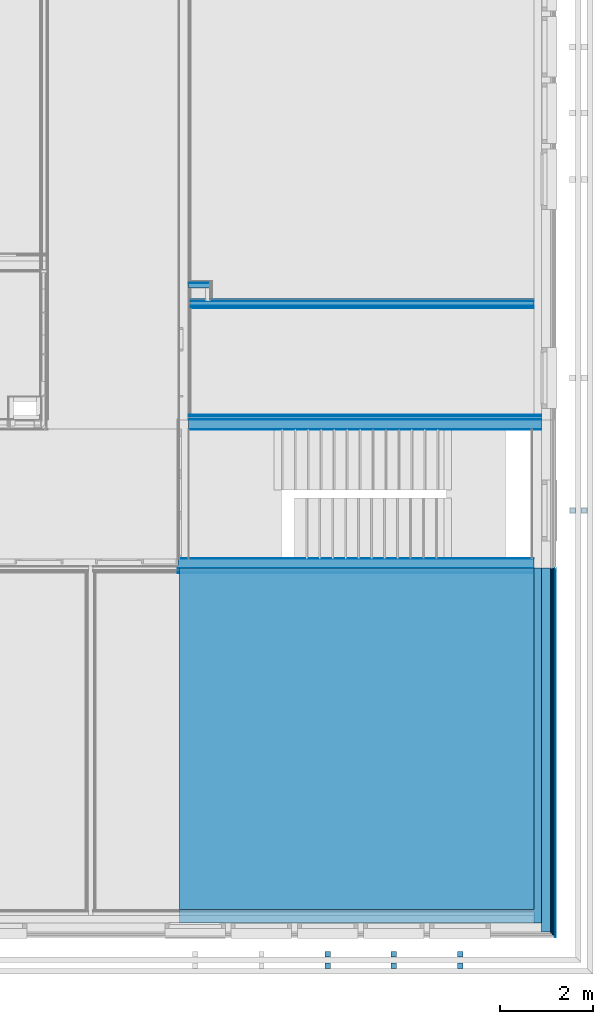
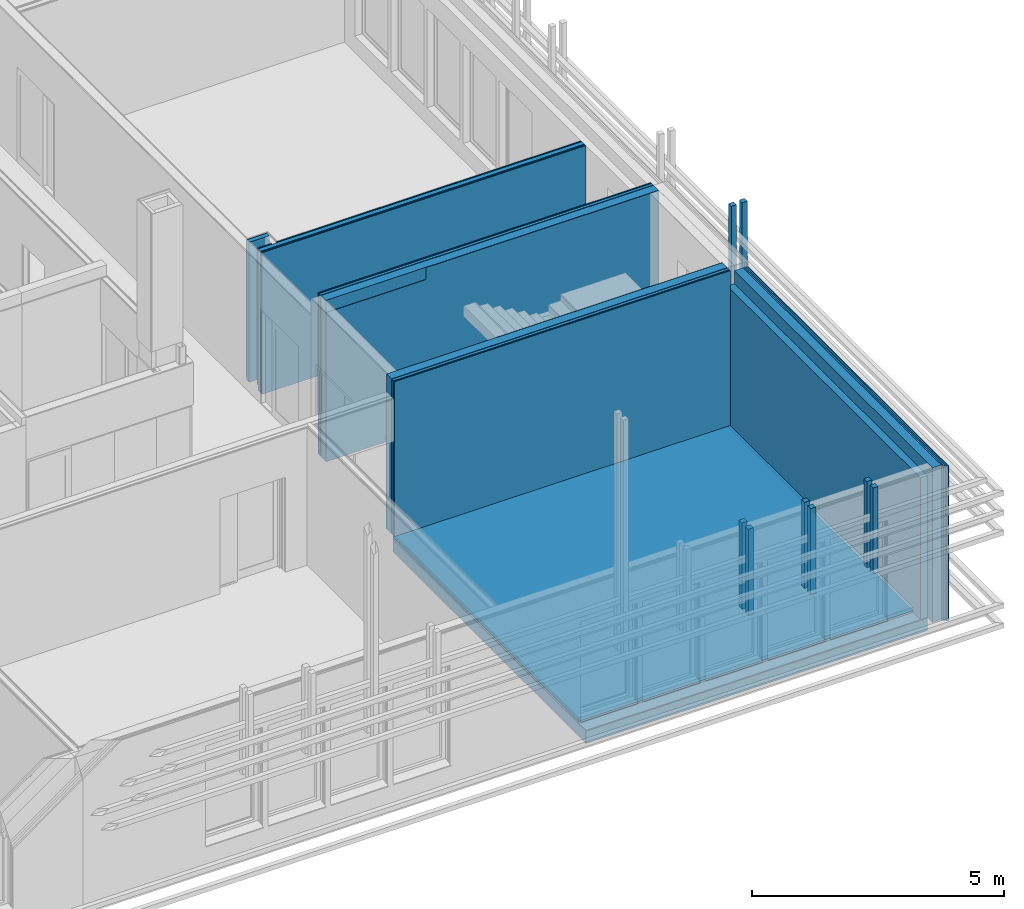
# One storey, part 112 of 139: 36 building element parts, 4 discrete accessories, 6 elements without a shape of their own.
"""IFC2X3 building model written with IfcOpenShell, lengths in millimetres."""

from ifc_helpers import new_model, entity, si_unit, converted_unit, derived_unit, money_unit, direction, frame, origin_with_axes, place, context, subcontext, project, spatial, faceted_brep, material, material_list, type_object, element, aggregate, save


model = new_model("IFC2X3")

# Units and contexts
model_context = context("Model", 3, precision=0.01, world=origin_with_axes(), true_north=direction((0.0, 1.0)))
body_context = subcontext(model_context, "Body", "Model", "MODEL_VIEW")
ifc_project = project(units=[si_unit("LENGTHUNIT", "METRE", prefix="MILLI"), si_unit("AREAUNIT", "SQUARE_METRE"), si_unit("VOLUMEUNIT", "CUBIC_METRE"), converted_unit("PLANEANGLEUNIT", "DEGREE", entity("IfcPlaneAngleMeasure", 0.0174532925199), si_unit("PLANEANGLEUNIT", "RADIAN"), dimensions=[0, 0, 0, 0, 0, 0, 0]), money_unit("EUR"), converted_unit("TIMEUNIT", "Year", entity("IfcTimeMeasure", 31556926.0), si_unit("TIMEUNIT", "SECOND"), dimensions=[0, 0, 1, 0, 0, 0, 0]), si_unit("MASSUNIT", "GRAM", prefix="KILO"), si_unit("THERMODYNAMICTEMPERATUREUNIT", "DEGREE_CELSIUS"), si_unit("LUMINOUSINTENSITYUNIT", "LUMEN"), si_unit("ENERGYUNIT", "JOULE", prefix="MEGA"), derived_unit("THERMALCONDUCTANCEUNIT", [(si_unit("POWERUNIT", "WATT"), 1), (si_unit("LENGTHUNIT", "METRE"), -1), (si_unit("THERMODYNAMICTEMPERATUREUNIT", "KELVIN"), -1)]), derived_unit("SPECIFICHEATCAPACITYUNIT", [(si_unit("ENERGYUNIT", "JOULE"), 1), (si_unit("MASSUNIT", "GRAM", prefix="KILO"), -1), (si_unit("THERMODYNAMICTEMPERATUREUNIT", "KELVIN"), -1)]), derived_unit("MASSDENSITYUNIT", [(si_unit("MASSUNIT", "GRAM", prefix="KILO"), 1), (si_unit("VOLUMEUNIT", "CUBIC_METRE"), -1)])], contexts=[model_context])

# Site, building, storey
site_placement = place(None, origin_with_axes())
site = spatial("IfcSite", under=ifc_project, at=site_placement, Name="Kolde pst 67a", CompositionType="ELEMENT")
building_placement = place(site_placement, origin_with_axes())
building = spatial("IfcBuilding", under=site, at=building_placement, Name="Riigigümnaasium", CompositionType="ELEMENT")
storey_placement = place(building_placement, frame((0.0, 0.0, 4600.0), z_axis=(0.0, 0.0, 1.0), x_axis=(1.0, 0.0, 0.0)))
storey = spatial("IfcBuildingStorey", under=building, at=storey_placement, Name="2. korrus", CompositionType="ELEMENT", Elevation=4600.0)

# Discrete accessories
ifc_material_1 = material(Name="_VÄLISVIIMISTLUS - sõrmjätkatud puitprussid 120x115mm, liitekohad vähemärgatavad, Platowood sõrmjätkatud kuusk või samaväärne; eeltöödeldud tuletõkkevõõbaga, tuletundlikkus B-s1, d0, Woodsafe Exterior WFX™ või samaväärne; kinnitused vastavalt EK osale")
ifc_material_list = material_list([ifc_material_1, ifc_material_1])
discrete_accessory_type = type_object("IfcDiscreteAccessoryType", Name="1+paiksekaitse 3 370 x 115")
discrete_accessory_placement = place(storey_placement, frame((85772.0409312, 9004.99278141, 2150.0), z_axis=(0.0, 0.0, 1.0), x_axis=(-1.0, 0.0, 0.0)))
element("IfcDiscreteAccessory", 1, at=discrete_accessory_placement, inside=storey, type_object=discrete_accessory_type, material=ifc_material_list, Name="Päikesevarjestus", context=body_context, shape_type="Brep", body=[
    faceted_brep([(467.0, 117.5, 0.0), (347.0, 117.5, 0.0), (347.0, 117.5, 2090.0), (467.0, 117.5, 2090.0), (467.0, 2.5, 0.0), (347.0, 2.5, 0.0), (347.0, 2.5, 2090.0), (467.0, 2.5, 2090.0)], [[[0, 1, 2, 3]], [[0, 4, 5, 1]], [[1, 5, 6, 2]], [[3, 2, 6, 7]], [[4, 0, 3, 7]], [[5, 4, 7, 6]]]),
    faceted_brep([(717.0, 117.5, 0.0), (597.0, 117.5, 0.0), (597.0, 117.5, 2090.0), (717.0, 117.5, 2090.0), (717.0, 2.5, 0.0), (597.0, 2.5, 0.0), (597.0, 2.5, 2090.0), (717.0, 2.5, 2090.0)], [[[0, 1, 2, 3]], [[0, 4, 5, 1]], [[1, 5, 6, 2]], [[3, 2, 6, 7]], [[4, 0, 3, 7]], [[5, 4, 7, 6]]]),
])
for number, where, z_axis, x_axis in (
    (2, (79885.0231689, -1292.00007473, 2150.0), (0.0, 0.0, 1.0), (0.0, 1.0, 0.0)),
    (3, (81315.0231689, -1292.00007473, 2150.0), (0.0, 0.0, 1.0), (0.0, 1.0, 0.0)),
    (4, (82745.0231689, -1292.00007473, 2150.0), (0.0, 0.0, 1.0), (0.0, 1.0, 0.0)),
):
    element("IfcDiscreteAccessory", number, at=place(storey_placement, frame(where, z_axis=z_axis, x_axis=x_axis)), inside=storey, type_object=discrete_accessory_type, material=ifc_material_list, Name="Päikesevarjestus", context=body_context, shape_type="Brep", body=[
        faceted_brep([(467.0, 117.5, 0.0), (347.0, 117.5, 0.0), (347.0, 117.5, 2090.0), (467.0, 117.5, 2090.0), (467.0, 2.5, 0.0), (347.0, 2.5, 0.0), (347.0, 2.5, 2090.0), (467.0, 2.5, 2090.0)], [[[0, 1, 2, 3]], [[0, 4, 5, 1]], [[1, 5, 6, 2]], [[3, 2, 6, 7]], [[4, 0, 3, 7]], [[5, 4, 7, 6]]]),
        faceted_brep([(717.0, 117.5, 0.0), (597.0, 117.5, 0.0), (597.0, 117.5, 2090.0), (717.0, 117.5, 2090.0), (717.0, 2.50000000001, 0.0), (597.0, 2.50000000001, 0.0), (597.0, 2.50000000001, 2090.0), (717.0, 2.50000000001, 2090.0)], [[[0, 1, 2, 3]], [[0, 4, 5, 1]], [[1, 5, 6, 2]], [[3, 2, 6, 7]], [[4, 0, 3, 7]], [[5, 4, 7, 6]]]),
    ])

# Wall, building element parts
wall_type_1 = type_object("IfcWallType", Name="VS-CLT-16/1_soojust 200+laudis 472", PredefinedType="NOTDEFINED")
wall_1_placement = place(storey_placement, frame((84439.9993279, 40.0, -130.0), z_axis=(0.0, 0.0, 1.0), x_axis=(0.0, 1.0, 0.0)))
wall_1 = element("IfcWall", 5, at=wall_1_placement, inside=storey, type_object=wall_type_1, Name="Välissein")
ifc_material_2 = material(Name="_KANDETARIND - CLT ristkihtliimpuit vastavalt EK osale, CLT paigaldusvuugid teibitakse ROTHOBLAAS teibiga")
building_element_part_1_placement = place(wall_1_placement, origin_with_axes())
building_element_part_1 = element("IfcBuildingElementPart", 6, at=building_element_part_1_placement, material=ifc_material_2, Name="_KANDETARIND - CLT ristkihtliimpuit vastavalt EK osale, CLT paigaldusvuugid teibitakse ROTHOBLAAS teibiga", context=body_context, shape_type="Brep", body=[
    faceted_brep([(7659.97369358, 160.0, 3436.9), (7659.9736286, 0.0, 3436.9), (7659.9736286, 0.0, 6.9), (7659.9744054, 159.999999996, 6.9), (0.0, 0.0, 3436.9), (-3.81552811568e-06, 160.0, 3436.9), (0.0, 0.0, 6.9), (0.0, 160.0, 6.9)], [[[0, 1, 2, 3]], [[4, 1, 0, 5]], [[1, 4, 6, 2]], [[3, 2, 6, 7]], [[5, 0, 3, 7]], [[4, 5, 7, 6]]]),
])
ifc_material_3 = material(Name="_SOOJUSTUS - mineraalvill, λD<0,032 W/(mK), kuumtsingitud lehtteras termoroovidega, S350GD+Zn275 vastavalt EN10346, ISOVER EXTREME 32 200mm või samaväärne")
building_element_part_2_placement = place(wall_1_placement, origin_with_axes())
building_element_part_2 = element("IfcBuildingElementPart", 7, at=building_element_part_2_placement, material=ifc_material_3, Name="_SOOJUSTUS - mineraalvill, λD<0,032 W/(mK), kuumtsingitud lehtteras termoroovidega, S350GD+Zn275 vastavalt EN10346, ISOVER EXTREME 32 200mm või samaväärne", context=body_context, shape_type="Brep", body=[
    faceted_brep([(-200.0, 0.0, 0.0), (7659.9736286, 0.0, 0.0), (7659.9736286, -200.0, 0.0), (-200.0, -200.0, 0.0), (-200.0, 0.0, 3750.0), (7659.9736286, 0.0, 3750.0), (7659.9736286, -200.0, 3750.0), (-200.0, -200.0, 3750.0)], [[[0, 1, 2, 3]], [[4, 5, 1, 0]], [[2, 1, 5, 6]], [[3, 2, 6, 7]], [[4, 0, 3, 7]], [[7, 6, 5, 4]]]),
])
ifc_material_4 = material(Name="_TUULETÕKE - tuuletõkkeplaat, soojuserijuhtivus λD<0,031 W/(mK), ISOVER RKL FACADE või samaväärne, liitekohad katta tihendusteibiga ISOVER FacadeTape või samaväärne")
building_element_part_3_placement = place(wall_1_placement, origin_with_axes())
building_element_part_3 = element("IfcBuildingElementPart", 8, at=building_element_part_3_placement, material=ifc_material_4, Name="_TUULETÕKE - tuuletõkkeplaat, soojuserijuhtivus λD<0,031 W/(mK), ISOVER RKL FACADE või samaväärne, liitekohad katta tihendusteibiga ISOVER FacadeTape või samaväärne", context=body_context, shape_type="Brep", body=[
    faceted_brep([(7659.9736286, -200.0, 0.0), (7659.9736286, -230.0, 0.0), (-230.0, -230.0, 0.0), (-230.0, -200.0, 0.0), (7659.9736286, -200.0, 3750.0), (7659.9736286, -230.0, 3750.0), (-230.0, -230.0, 3750.0), (-230.0, -200.0, 3750.0)], [[[0, 1, 2, 3]], [[0, 4, 5, 1]], [[1, 5, 6, 2]], [[3, 2, 6, 7]], [[4, 0, 3, 7]], [[5, 4, 7, 6]]]),
])
ifc_material_5 = material(Name="_KARKASS - puitroov 32x50mm vertikaalne, immutatud Driconi tulekaitsevahendiga või samaväärne, samm 600mm")
building_element_part_4_placement = place(wall_1_placement, origin_with_axes())
building_element_part_4 = element("IfcBuildingElementPart", 9, at=building_element_part_4_placement, material=ifc_material_5, Name="_KARKASS - puitroov 32x50mm vertikaalne, immutatud Driconi tulekaitsevahendiga või samaväärne, samm 600mm", context=body_context, shape_type="Brep", body=[
    faceted_brep([(7659.9736286, -230.0, 0.0), (7659.9736286, -262.0, 0.0), (-262.0, -262.0, 0.0), (-262.0, -230.0, 0.0), (7659.9736286, -230.0, 3750.0), (7659.9736286, -262.0, 3750.0), (-262.0, -262.0, 3750.0), (-262.0, -230.0, 3750.0)], [[[0, 1, 2, 3]], [[0, 4, 5, 1]], [[1, 5, 6, 2]], [[3, 2, 6, 7]], [[4, 0, 3, 7]], [[5, 4, 7, 6]]]),
])
ifc_material_6 = material(Name="_KARKASS - puitroov 32x50mm horisontaalne, immutatud Driconi tulekaitsevahendiga või samaväärne, samm 600mm")
building_element_part_5_placement = place(wall_1_placement, origin_with_axes())
building_element_part_5 = element("IfcBuildingElementPart", 10, at=building_element_part_5_placement, material=ifc_material_6, Name="_KARKASS - puitroov 32x50mm horisontaalne, immutatud Driconi tulekaitsevahendiga või samaväärne, samm 600mm", context=body_context, shape_type="Brep", body=[
    faceted_brep([(7659.9736286, -262.0, 0.0), (7659.9736286, -294.0, 0.0), (-294.0, -294.0, 0.0), (-294.0, -262.0, 0.0), (7659.9736286, -262.0, 3750.0), (7659.9736286, -294.0, 3750.0), (-294.0, -294.0, 3750.0), (-294.0, -262.0, 3750.0)], [[[0, 1, 2, 3]], [[0, 4, 5, 1]], [[1, 5, 6, 2]], [[3, 2, 6, 7]], [[4, 0, 3, 7]], [[5, 4, 7, 6]]]),
])
ifc_material_7 = material(Name="_VÄLISVIIMISTLUS - vertikaalne voodrilaud, Platowood P01 profiil 18x140mm, kuusk; eeltöödeldud tuletõkkega mõlemad küljed, B-s1, d0, Woodsafe Exterior WFX™ või samaväärne")
building_element_part_6_placement = place(wall_1_placement, origin_with_axes())
building_element_part_6 = element("IfcBuildingElementPart", 11, at=building_element_part_6_placement, material=ifc_material_7, Name="_VÄLISVIIMISTLUS - vertikaalne voodrilaud, Platowood P01 profiil 18x140mm, kuusk; eeltöödeldud tuletõkkega mõlemad küljed, B-s1, d0, Woodsafe Exterior WFX™ või samaväärne", context=body_context, shape_type="Brep", body=[
    faceted_brep([(7659.9736286, -294.0, 0.0), (7659.9736286, -312.0, 0.0), (-312.0, -312.0, 0.0), (-312.0, -294.0, 0.0), (7659.9736286, -294.0, 3750.0), (7659.9736286, -312.0, 3750.0), (-312.0, -312.0, 3750.0), (-312.0, -294.0, 3750.0)], [[[0, 1, 2, 3]], [[0, 4, 5, 1]], [[1, 5, 6, 2]], [[3, 2, 6, 7]], [[4, 0, 3, 7]], [[5, 4, 7, 6]]]),
])
aggregate(wall_1, [building_element_part_1, building_element_part_2, building_element_part_3, building_element_part_4, building_element_part_5, building_element_part_6])

wall_type_2 = type_object("IfcWallType", Name="SS-RB-20/9_kipsil krohv+roov66 +krohv 325", PredefinedType="NOTDEFINED")
wall_2_placement = place(storey_placement, frame((84439.9980432, 10899.9619407, -150.0), z_axis=(0.0, 0.0, 1.0), x_axis=(-1.0, 0.0, 0.0)))
wall_2 = element("IfcWall", 12, at=wall_2_placement, inside=storey, type_object=wall_type_2, Name="Sisesein")
ifc_material_8 = material(Name="_VIIMISTLUSKIHT - viimistlus vastavalt SA osale")
building_element_part_7_placement = place(wall_2_placement, origin_with_axes())
building_element_part_7 = element("IfcBuildingElementPart", 13, at=building_element_part_7_placement, material=ifc_material_8, Name="_VIIMISTLUSKIHT - viimistlus vastavalt SA osale", context=body_context, shape_type="Brep", body=[
    faceted_brep([(7620.00973991, 199.979471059, 3610.0), (5330.38135087, 199.979509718, 3610.0), (5330.38135087, 199.979509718, 3900.0), (0.0, 200.0, 3900.0), (0.0, 200.0, 0.0), (7620.00334582, 200.0, 0.0), (7620.00960493, 210.000000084, 3610.0), (5330.38135087, 210.0, 3610.0), (5330.38135087, 210.0, 3900.0), (0.0, 210.0, 3900.0), (0.0, 210.0, 0.0), (7620.00334582, 210.0, 0.0)], [[[0, 1, 2, 3, 4, 5]], [[1, 0, 6, 7]], [[2, 1, 7, 8]], [[9, 3, 2, 8]], [[9, 10, 4, 3]], [[10, 11, 5, 4]], [[6, 0, 5, 11]], [[7, 6, 11, 10, 9, 8]]]),
])
ifc_material_9 = material(Name="_KANDETARIND - monteeritav raudbetoon vastavalt EK osale")
building_element_part_8_placement = place(wall_2_placement, origin_with_axes())
building_element_part_8 = element("IfcBuildingElementPart", 14, at=building_element_part_8_placement, material=ifc_material_9, Name="_KANDETARIND - monteeritav raudbetoon vastavalt EK osale", context=body_context, shape_type="Brep", body=[
    faceted_brep([(0.0, 0.0, 0.0), (0.0, 200.0, 0.0), (7620.00334582, 200.0, 0.0), (7620.00334582, 0.0, 0.0), (0.0, 0.0, 3900.0), (0.0, 200.0, 3900.0), (7620.00334582, 200.0, 3900.0), (7620.00334582, 0.0, 3900.0)], [[[0, 1, 2, 3]], [[4, 5, 1, 0]], [[1, 5, 6, 2]], [[7, 3, 2, 6]], [[4, 0, 3, 7]], [[5, 4, 7, 6]]]),
])
ifc_material_10 = material(Name="_ÕHKVAHE")
building_element_part_9_placement = place(wall_2_placement, origin_with_axes())
building_element_part_9 = element("IfcBuildingElementPart", 15, at=building_element_part_9_placement, material=ifc_material_10, Name="_ÕHKVAHE", context=body_context, shape_type="Brep", body=[
    faceted_brep([(7620.00334582, 0.0, 0.0), (7620.00334582, -10.0, 0.0), (0.0, -10.0, 0.0), (0.0, 0.0, 0.0), (7620.00334582, 0.0, 3900.0), (7620.00334582, -10.0, 3900.0), (0.0, -10.0, 3900.0), (0.0, 0.0, 3900.0)], [[[0, 1, 2, 3]], [[0, 4, 5, 1]], [[1, 5, 6, 2]], [[3, 2, 6, 7]], [[4, 0, 3, 7]], [[5, 4, 7, 6]]]),
])
ifc_material_11 = material(Name="_KARKASS - metallkarkass CW 66/35/06, samm 600, mineraalvill karkassi vahel")
building_element_part_10_placement = place(wall_2_placement, origin_with_axes())
building_element_part_10 = element("IfcBuildingElementPart", 16, at=building_element_part_10_placement, material=ifc_material_11, Name="_KARKASS - metallkarkass CW 66/35/06, samm 600, mineraalvill karkassi vahel", context=body_context, shape_type="Brep", body=[
    faceted_brep([(7620.00334582, -10.0, 0.0), (7620.00334582, -76.0, 0.0), (0.0, -76.0, 0.0), (0.0, -10.0, 0.0), (7620.00334582, -10.0, 3900.0), (7620.00334582, -76.0, 3900.0), (0.0, -76.0, 3900.0), (0.0, -10.0, 3900.0)], [[[0, 1, 2, 3]], [[0, 4, 5, 1]], [[1, 5, 6, 2]], [[3, 2, 6, 7]], [[4, 0, 3, 7]], [[5, 4, 7, 6]]]),
])
ifc_material_12 = material(Name="_PLAATMATERJAL - OSB3 plaat")
building_element_part_11_placement = place(wall_2_placement, origin_with_axes())
building_element_part_11 = element("IfcBuildingElementPart", 17, at=building_element_part_11_placement, material=ifc_material_12, Name="_PLAATMATERJAL - OSB3 plaat", context=body_context, shape_type="Brep", body=[
    faceted_brep([(7620.00334582, -76.0, 0.0), (7620.00334582, -91.0, 0.0), (0.0, -91.0, 0.0), (0.0, -76.0, 0.0), (7620.00334582, -76.0, 3900.0), (7620.00334582, -91.0, 3900.0), (0.0, -91.0, 3900.0), (0.0, -76.0, 3900.0)], [[[0, 1, 2, 3]], [[0, 4, 5, 1]], [[1, 5, 6, 2]], [[3, 2, 6, 7]], [[4, 0, 3, 7]], [[5, 4, 7, 6]]]),
])
ifc_material_13 = material(Name="_PLAATMATERJAL - tuletõkkekipsplaat, Knauf Red GKF või samaväärne")
building_element_part_12_placement = place(wall_2_placement, origin_with_axes())
building_element_part_12 = element("IfcBuildingElementPart", 18, at=building_element_part_12_placement, material=ifc_material_13, Name="_PLAATMATERJAL - tuletõkkekipsplaat, Knauf Red GKF või samaväärne", context=body_context, shape_type="Brep", body=[
    faceted_brep([(7620.00334582, -91.0, 0.0), (7620.00334582, -106.0, 0.0), (0.0, -106.0, 0.0), (0.0, -91.0, 0.0), (7620.00334582, -91.0, 3900.0), (7620.00334582, -106.0, 3900.0), (0.0, -106.0, 3900.0), (0.0, -91.0, 3900.0)], [[[0, 1, 2, 3]], [[0, 4, 5, 1]], [[1, 5, 6, 2]], [[3, 2, 6, 7]], [[4, 0, 3, 7]], [[5, 4, 7, 6]]]),
])
building_element_part_13_placement = place(wall_2_placement, origin_with_axes())
building_element_part_13 = element("IfcBuildingElementPart", 19, at=building_element_part_13_placement, material=ifc_material_8, Name="_VIIMISTLUSKIHT - viimistlus vastavalt SA osale", context=body_context, shape_type="Brep", body=[
    faceted_brep([(7620.00334582, -106.0, 0.0), (7620.00334582, -115.0, 0.0), (0.0, -115.0, 0.0), (0.0, -106.0, 0.0), (7620.00334582, -106.0, 3900.0), (7620.00334582, -115.0, 3900.0), (0.0, -115.0, 3900.0), (0.0, -106.0, 3900.0)], [[[0, 1, 2, 3]], [[0, 4, 5, 1]], [[1, 5, 6, 2]], [[3, 2, 6, 7]], [[4, 0, 3, 7]], [[5, 4, 7, 6]]]),
])
aggregate(wall_2, [building_element_part_7, building_element_part_8, building_element_part_9, building_element_part_10, building_element_part_11, building_element_part_12, building_element_part_13])

wall_type_3 = type_object("IfcWallType", Name="SS-PK-10/8_vill100+dold+vineer-värv 200", PredefinedType="NOTDEFINED")
wall_3_placement = place(storey_placement, frame((84439.9991346, 13509.9534691, -130.0), z_axis=(0.0, 0.0, 1.0), x_axis=(-1.0, -2.82157997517e-07, 0.0)))
wall_3 = element("IfcWall", 20, at=wall_3_placement, inside=storey, type_object=wall_type_3, Name="Sisesein")
ifc_material_14 = material(Name="_VIIMISTLUSKIHT - Dold plaat vastavalt SA osale")
building_element_part_14_placement = place(wall_3_placement, origin_with_axes())
building_element_part_14 = element("IfcBuildingElementPart", 21, at=building_element_part_14_placement, material=ifc_material_14, Name="_VIIMISTLUSKIHT - Dold plaat vastavalt SA osale", context=body_context, shape_type="Brep", body=[
    faceted_brep([(7575.20456286, 180.0, 3436.9), (159.99985751, 180.0, 3436.9), (159.99985751, 180.0, 6.9), (5549.33119467, 180.0, 6.9), (5549.33119467, 180.0, 130.0), (5624.33119469, 180.0, 130.0), (5624.33119469, 180.0, 6.9), (7575.20456286, 180.0, 6.9), (159.999863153, 200.0, 3436.9), (7575.20456286, 200.0, 3436.9), (159.999863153, 200.0, 6.9), (5549.33067268, 200.0, 6.9), (5549.33067268, 200.0, 130.0), (5624.3306727, 200.0, 130.0), (5624.3306727, 200.0, 6.9), (7575.20456286, 200.0, 6.9)], [[[0, 1, 2, 3, 4, 5, 6, 7]], [[8, 1, 0, 9]], [[1, 8, 10, 2]], [[3, 2, 10, 11]], [[3, 11, 12, 4]], [[13, 5, 4, 12]], [[14, 6, 5, 13]], [[7, 6, 14, 15]], [[9, 0, 7, 15]], [[8, 9, 15, 14, 13, 12, 11, 10]]]),
])
ifc_material_15 = material(Name="_KARKASS - eriprofiilkinnitus vastavalt sisemisele plaatviimistlusele")
building_element_part_15_placement = place(wall_3_placement, origin_with_axes())
building_element_part_15 = element("IfcBuildingElementPart", 22, at=building_element_part_15_placement, material=ifc_material_15, Name="_KARKASS - eriprofiilkinnitus vastavalt sisemisele plaatviimistlusele", context=body_context, shape_type="Brep", body=[
    faceted_brep([(7575.20456286, 170.0, 3436.9), (159.999854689, 170.0, 3436.9), (159.999854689, 170.0, 6.9), (5549.33145566, 170.0, 6.9), (5549.33145566, 170.0, 130.0), (5624.33145569, 170.0, 130.0), (5624.33145569, 170.0, 6.9), (7575.20456286, 170.0, 6.9), (159.99985751, 180.0, 3436.9), (7575.20456286, 180.0, 3436.9), (159.99985751, 180.0, 6.9), (5549.33119467, 180.0, 6.9), (5549.33119467, 180.0, 130.0), (5624.33119469, 180.0, 130.0), (5624.33119469, 180.0, 6.9), (7575.20456286, 180.0, 6.9)], [[[0, 1, 2, 3, 4, 5, 6, 7]], [[8, 1, 0, 9]], [[1, 8, 10, 2]], [[3, 2, 10, 11]], [[3, 11, 12, 4]], [[13, 5, 4, 12]], [[14, 6, 5, 13]], [[7, 6, 14, 15]], [[9, 0, 7, 15]], [[8, 9, 15, 14, 13, 12, 11, 10]]]),
])
building_element_part_16_placement = place(wall_3_placement, origin_with_axes())
building_element_part_16 = element("IfcBuildingElementPart", 23, at=building_element_part_16_placement, material=ifc_material_13, Name="_PLAATMATERJAL - tuletõkkekipsplaat, Knauf Red GKF või samaväärne", context=body_context, shape_type="Brep", body=[
    faceted_brep([(7575.20456286, 155.0, 3436.9), (159.999850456, 155.0, 3436.9), (159.999850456, 155.0, 6.9), (5549.33184715, 155.0, 6.9), (5549.33184715, 155.0, 130.0), (5624.33184718, 155.0, 130.0), (5624.33184718, 155.0, 6.9), (7575.20456286, 155.0, 6.9), (159.999854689, 170.0, 3436.9), (7575.20456286, 170.0, 3436.9), (159.999854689, 170.0, 6.9), (5549.33145566, 170.0, 6.9), (5549.33145566, 170.0, 130.0), (5624.33145569, 170.0, 130.0), (5624.33145569, 170.0, 6.9), (7575.20456286, 170.0, 6.9)], [[[0, 1, 2, 3, 4, 5, 6, 7]], [[8, 1, 0, 9]], [[1, 8, 10, 2]], [[3, 2, 10, 11]], [[3, 11, 12, 4]], [[13, 5, 4, 12]], [[14, 6, 5, 13]], [[7, 6, 14, 15]], [[9, 0, 7, 15]], [[8, 9, 15, 14, 13, 12, 11, 10]]]),
])
building_element_part_17_placement = place(wall_3_placement, origin_with_axes())
building_element_part_17 = element("IfcBuildingElementPart", 24, at=building_element_part_17_placement, material=ifc_material_12, Name="_PLAATMATERJAL - OSB3 plaat", context=body_context, shape_type="Brep", body=[
    faceted_brep([(7575.20456286, 145.0, 3436.9), (159.999847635, 145.0, 3436.9), (159.999847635, 145.0, 6.9), (5549.33210814, 145.0, 6.9), (5549.33210814, 145.0, 130.0), (5624.33210817, 145.0, 130.0), (5624.33210817, 145.0, 6.9), (7575.20456286, 145.0, 6.9), (159.999850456, 155.0, 3436.9), (7575.20456286, 155.0, 3436.9), (159.999850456, 155.0, 6.9), (5549.33184715, 155.0, 6.9), (5549.33184715, 155.0, 130.0), (5624.33184718, 155.0, 130.0), (5624.33184718, 155.0, 6.9), (7575.20456286, 155.0, 6.9)], [[[0, 1, 2, 3, 4, 5, 6, 7]], [[8, 1, 0, 9]], [[1, 8, 10, 2]], [[3, 2, 10, 11]], [[3, 11, 12, 4]], [[13, 5, 4, 12]], [[14, 6, 5, 13]], [[7, 6, 14, 15]], [[9, 0, 7, 15]], [[8, 9, 15, 14, 13, 12, 11, 10]]]),
])
ifc_material_16 = material(Name="_KARKASS - puitpruss 100x50mm vertikaalne, samm 600mm, vahel mineraalvill, helineeldetegur αw = 1.0, ISOVER ACOUSTIC 100mm või samaväärne")
building_element_part_18_placement = place(wall_3_placement, origin_with_axes())
building_element_part_18 = element("IfcBuildingElementPart", 25, at=building_element_part_18_placement, material=ifc_material_16, Name="_KARKASS - puitpruss 100x50mm vertikaalne, samm 600mm, vahel mineraalvill, helineeldetegur αw = 1.0, ISOVER ACOUSTIC 100mm või samaväärne", context=body_context, shape_type="Brep", body=[
    faceted_brep([(7575.20456286, 45.0, 3436.9), (159.999819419, 45.0, 3436.9), (159.999819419, 45.0, 6.9), (5549.33471809, 45.0, 6.9), (5549.33471809, 45.0, 130.0), (5624.33471811, 45.0, 130.0), (5624.33471811, 45.0, 6.9), (7575.20456286, 45.0, 6.9), (159.999847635, 145.0, 3436.9), (7575.20456286, 145.0, 3436.9), (159.999847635, 145.0, 6.9), (5549.33210814, 145.0, 6.9), (5549.33210814, 145.0, 130.0), (5624.33210817, 145.0, 130.0), (5624.33210817, 145.0, 6.9), (7575.20456286, 145.0, 6.9)], [[[0, 1, 2, 3, 4, 5, 6, 7]], [[8, 1, 0, 9]], [[1, 8, 10, 2]], [[3, 2, 10, 11]], [[3, 11, 12, 4]], [[13, 5, 4, 12]], [[14, 6, 5, 13]], [[7, 6, 14, 15]], [[9, 0, 7, 15]], [[8, 9, 15, 14, 13, 12, 11, 10]]]),
])
building_element_part_19_placement = place(wall_3_placement, origin_with_axes())
building_element_part_19 = element("IfcBuildingElementPart", 26, at=building_element_part_19_placement, material=ifc_material_12, Name="_PLAATMATERJAL - OSB3 plaat", context=body_context, shape_type="Brep", body=[
    faceted_brep([(7149.99115473, 35.0, 3436.9), (159.999816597, 35.0, 3436.9), (159.999816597, 35.0, 127.0), (5549.33497908, 35.0, 127.0), (5549.33497908, 35.0, 130.0), (5624.33497911, 35.0, 130.0), (5624.33497911, 35.0, 127.0), (7149.99115473, 35.0, 127.0), (159.999819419, 45.0, 3436.9), (7149.99115473, 45.0, 3436.9), (159.999819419, 45.0, 127.0), (5549.33471809, 45.0, 127.0), (5549.33471809, 45.0, 130.0), (5624.33471811, 45.0, 130.0), (5624.33471811, 45.0, 127.0), (7149.99115473, 45.0, 127.0)], [[[0, 1, 2, 3, 4, 5, 6, 7]], [[8, 1, 0, 9]], [[1, 8, 10, 2]], [[3, 2, 10, 11]], [[3, 11, 12, 4]], [[13, 5, 4, 12]], [[14, 6, 5, 13]], [[7, 6, 14, 15]], [[9, 0, 7, 15]], [[8, 9, 15, 14, 13, 12, 11, 10]]]),
    faceted_brep([(7575.20456286, 35.0, 3436.9), (7249.99115473, 35.0, 3436.9), (7249.99115473, 35.0, 127.0), (7575.20456286, 35.0, 127.0), (7249.99115473, 45.0, 3436.9), (7575.20456286, 45.0, 3436.9), (7249.99115473, 45.0, 127.0), (7575.20456286, 45.0, 127.0)], [[[0, 1, 2, 3]], [[4, 1, 0, 5]], [[1, 4, 6, 2]], [[3, 2, 6, 7]], [[5, 0, 3, 7]], [[4, 5, 7, 6]]]),
])
building_element_part_20_placement = place(wall_3_placement, origin_with_axes())
building_element_part_20 = element("IfcBuildingElementPart", 27, at=building_element_part_20_placement, material=ifc_material_13, Name="_PLAATMATERJAL - tuletõkkekipsplaat, Knauf Red GKF või samaväärne", context=body_context, shape_type="Brep", body=[
    faceted_brep([(7149.99115473, 20.0, 3436.9), (159.999812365, 20.0, 3436.9), (159.999812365, 20.0, 127.0), (5549.33537057, 20.0, 127.0), (5549.33537057, 20.0, 130.0), (5624.3353706, 20.0, 130.0), (5624.3353706, 20.0, 127.0), (7149.99115473, 20.0, 127.0), (159.999816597, 35.0, 3436.9), (7149.99115473, 35.0, 3436.9), (159.999816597, 35.0, 127.0), (5549.33497908, 35.0, 127.0), (5549.33497908, 35.0, 130.0), (5624.33497911, 35.0, 130.0), (5624.33497911, 35.0, 127.0), (7149.99115473, 35.0, 127.0)], [[[0, 1, 2, 3, 4, 5, 6, 7]], [[8, 1, 0, 9]], [[1, 8, 10, 2]], [[3, 2, 10, 11]], [[3, 11, 12, 4]], [[13, 5, 4, 12]], [[14, 6, 5, 13]], [[7, 6, 14, 15]], [[9, 0, 7, 15]], [[8, 9, 15, 14, 13, 12, 11, 10]]]),
    faceted_brep([(7575.20456286, 20.0, 3436.9), (7249.99115473, 20.0, 3436.9), (7249.99115473, 20.0, 127.0), (7575.20456286, 20.0, 127.0), (7249.99115473, 35.0, 3436.9), (7575.20456286, 35.0, 3436.9), (7249.99115473, 35.0, 127.0), (7575.20456286, 35.0, 127.0)], [[[0, 1, 2, 3]], [[4, 1, 0, 5]], [[1, 4, 6, 2]], [[3, 2, 6, 7]], [[5, 0, 3, 7]], [[4, 5, 7, 6]]]),
])
building_element_part_21_placement = place(wall_3_placement, origin_with_axes())
building_element_part_21 = element("IfcBuildingElementPart", 28, at=building_element_part_21_placement, material=ifc_material_13, Name="_PLAATMATERJAL - tuletõkkekipsplaat, Knauf Red GKF või samaväärne", context=body_context, shape_type="Brep", body=[
    faceted_brep([(7149.99115473, 5.0, 3436.9), (159.999808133, 5.0, 3436.9), (159.999808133, 5.0, 127.0), (5549.33576206, 5.0, 127.0), (5549.33576206, 5.0, 130.0), (5624.33576209, 5.0, 130.0), (5624.33576209, 5.0, 127.0), (7149.99115473, 5.0, 127.0), (159.999812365, 20.0, 3436.9), (7149.99115473, 20.0, 3436.9), (159.999812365, 20.0, 127.0), (5549.33537057, 20.0, 127.0), (5549.33537057, 20.0, 130.0), (5624.3353706, 20.0, 130.0), (5624.3353706, 20.0, 127.0), (7149.99115473, 20.0, 127.0)], [[[0, 1, 2, 3, 4, 5, 6, 7]], [[8, 1, 0, 9]], [[1, 8, 10, 2]], [[3, 2, 10, 11]], [[3, 11, 12, 4]], [[13, 5, 4, 12]], [[14, 6, 5, 13]], [[7, 6, 14, 15]], [[9, 0, 7, 15]], [[8, 9, 15, 14, 13, 12, 11, 10]]]),
    faceted_brep([(7575.20456286, 5.0, 3436.9), (7249.99115473, 5.0, 3436.9), (7249.99115473, 5.0, 127.0), (7575.20456286, 5.0, 127.0), (7249.99115473, 20.0, 3436.9), (7575.20456286, 20.0, 3436.9), (7249.99115473, 20.0, 127.0), (7575.20456286, 20.0, 127.0)], [[[0, 1, 2, 3]], [[4, 1, 0, 5]], [[1, 4, 6, 2]], [[3, 2, 6, 7]], [[5, 0, 3, 7]], [[4, 5, 7, 6]]]),
])
aggregate(wall_3, [building_element_part_14, building_element_part_15, building_element_part_16, building_element_part_17, building_element_part_18, building_element_part_19, building_element_part_20, building_element_part_21])

wall_4_placement = place(storey_placement, frame((76589.9947023, 7900.0, 0.0), z_axis=(0.0, 0.0, 1.0), x_axis=(0.999999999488, 3.20033647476e-05, 0.0)))
wall_4 = element("IfcWall", 29, at=wall_4_placement, inside=storey, type_object=wall_type_2, Name="Sisesein")
building_element_part_22_placement = place(wall_4_placement, origin_with_axes())
building_element_part_22 = element("IfcBuildingElementPart", 30, at=building_element_part_22_placement, material=ifc_material_8, Name="_VIIMISTLUSKIHT - viimistlus vastavalt SA osale", context=body_context, shape_type="Brep", body=[
    faceted_brep([(240.000315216, 10.0, 3460.0), (2519.62231134, 9.99999998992, 3460.0), (2519.62231134, 10.0, 3750.0), (7689.62188889, 10.0, 3750.0), (7689.62188889, 10.0, 0.0), (0.0, 10.0, 0.0), (0.000315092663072, 9.99999998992, 2300.0), (240.000315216, 10.0, 2300.0), (239.999994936, -0.00768080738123, 3460.0), (2519.6219913, 1.58095758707e-10, 3460.0), (2519.62199113, -0.00533044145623, 3750.0), (7689.62188889, 0.0, 3750.0), (7689.62188889, 0.0, 0.0), (0.0, 0.0, 0.0), (-4.94098628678e-06, 1.58095758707e-10, 2300.0), (239.999994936, -0.00768080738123, 2300.0)], [[[0, 1, 2, 3, 4, 5, 6, 7]], [[1, 0, 8, 9]], [[2, 1, 9, 10]], [[2, 10, 11, 3]], [[3, 11, 12, 4]], [[12, 13, 5, 4]], [[13, 14, 6, 5]], [[15, 7, 6, 14]], [[8, 0, 7, 15]], [[9, 8, 15, 14, 13, 12, 11, 10]]]),
])
building_element_part_23_placement = place(wall_4_placement, origin_with_axes())
building_element_part_23 = element("IfcBuildingElementPart", 31, at=building_element_part_23_placement, material=ifc_material_9, Name="_KANDETARIND - monteeritav raudbetoon vastavalt EK osale", context=body_context, shape_type="Brep", body=[
    faceted_brep([(230.031318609, 0.0, 3460.0), (2519.6219913, 0.0, 3460.0), (2519.6219913, 0.0, 3750.0), (7689.62188889, 0.0, 3750.0), (7689.62188889, 0.0, 0.0), (0.0, 0.0, 0.0), (0.0, 0.0, 3750.0), (230.031318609, 0.0, 3750.0), (230.031316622, -0.107209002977, 3460.0), (2519.62198651, -0.149633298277, 3460.0), (2519.62198651, -0.149633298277, 3750.0), (230.031316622, -0.107209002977, 3750.0), (0.0, -200.0, 3750.0), (7689.62188889, -200.0, 3750.0), (7689.62188889, -200.0, 0.0), (0.0, -200.0, 0.0)], [[[0, 1, 2, 3, 4, 5, 6, 7]], [[1, 0, 8, 9]], [[2, 1, 9, 10]], [[11, 7, 6, 12, 13, 3, 2, 10]], [[3, 13, 14, 4]], [[14, 15, 5, 4]], [[15, 12, 6, 5]], [[8, 0, 7, 11]], [[9, 8, 11, 10]], [[13, 12, 15, 14]]]),
])
building_element_part_24_placement = place(wall_4_placement, origin_with_axes())
building_element_part_24 = element("IfcBuildingElementPart", 32, at=building_element_part_24_placement, material=ifc_material_10, Name="_ÕHKVAHE", context=body_context, shape_type="Brep", body=[
    faceted_brep([(7689.62188889, -200.0, 0.0), (7689.62188889, -210.0, 0.0), (0.0, -210.0, 0.0), (0.0, -200.0, 0.0), (7689.62188889, -200.0, 3750.0), (7689.62188889, -210.0, 3750.0), (0.0, -210.0, 3750.0), (0.0, -200.0, 3750.0)], [[[0, 1, 2, 3]], [[0, 4, 5, 1]], [[1, 5, 6, 2]], [[3, 2, 6, 7]], [[4, 0, 3, 7]], [[5, 4, 7, 6]]]),
])
building_element_part_25_placement = place(wall_4_placement, origin_with_axes())
building_element_part_25 = element("IfcBuildingElementPart", 33, at=building_element_part_25_placement, material=ifc_material_11, Name="_KARKASS - metallkarkass CW 66/35/06, samm 600, mineraalvill karkassi vahel", context=body_context, shape_type="Brep", body=[
    faceted_brep([(7689.62188889, -210.0, 0.0), (7689.62188889, -276.0, 0.0), (0.0, -276.0, 0.0), (0.0, -210.0, 0.0), (7689.62188889, -210.0, 3750.0), (7689.62188889, -276.0, 3750.0), (0.0, -276.0, 3750.0), (0.0, -210.0, 3750.0)], [[[0, 1, 2, 3]], [[0, 4, 5, 1]], [[1, 5, 6, 2]], [[3, 2, 6, 7]], [[4, 0, 3, 7]], [[5, 4, 7, 6]]]),
])
building_element_part_26_placement = place(wall_4_placement, origin_with_axes())
building_element_part_26 = element("IfcBuildingElementPart", 34, at=building_element_part_26_placement, material=ifc_material_12, Name="_PLAATMATERJAL - OSB3 plaat", context=body_context, shape_type="Brep", body=[
    faceted_brep([(7689.62188889, -276.0, 0.0), (7689.62188889, -291.0, 0.0), (0.0, -291.0, 0.0), (0.0, -276.0, 0.0), (7689.62188889, -276.0, 3750.0), (7689.62188889, -291.0, 3750.0), (0.0, -291.0, 3750.0), (0.0, -276.0, 3750.0)], [[[0, 1, 2, 3]], [[0, 4, 5, 1]], [[1, 5, 6, 2]], [[3, 2, 6, 7]], [[4, 0, 3, 7]], [[5, 4, 7, 6]]]),
])
building_element_part_27_placement = place(wall_4_placement, origin_with_axes())
building_element_part_27 = element("IfcBuildingElementPart", 35, at=building_element_part_27_placement, material=ifc_material_13, Name="_PLAATMATERJAL - tuletõkkekipsplaat, Knauf Red GKF või samaväärne", context=body_context, shape_type="Brep", body=[
    faceted_brep([(7689.62188889, -291.0, 0.0), (7689.62188889, -306.0, 0.0), (0.0, -306.0, 0.0), (0.0, -291.0, 0.0), (7689.62188889, -291.0, 3750.0), (7689.62188889, -306.0, 3750.0), (0.0, -306.0, 3750.0), (0.0, -291.0, 3750.0)], [[[0, 1, 2, 3]], [[0, 4, 5, 1]], [[1, 5, 6, 2]], [[3, 2, 6, 7]], [[4, 0, 3, 7]], [[5, 4, 7, 6]]]),
])
building_element_part_28_placement = place(wall_4_placement, origin_with_axes())
building_element_part_28 = element("IfcBuildingElementPart", 36, at=building_element_part_28_placement, material=ifc_material_8, Name="_VIIMISTLUSKIHT - viimistlus vastavalt SA osale", context=body_context, shape_type="Brep", body=[
    faceted_brep([(7689.62188889, -306.0, 0.0), (7689.62188889, -315.0, 0.0), (0.0, -315.0, 0.0), (0.0, -306.0, 0.0), (7689.62188889, -306.0, 3750.0), (7689.62188889, -315.0, 3750.0), (0.0, -315.0, 3750.0), (0.0, -306.0, 3750.0)], [[[0, 1, 2, 3]], [[0, 4, 5, 1]], [[1, 5, 6, 2]], [[3, 2, 6, 7]], [[4, 0, 3, 7]], [[5, 4, 7, 6]]]),
])
aggregate(wall_4, [building_element_part_22, building_element_part_23, building_element_part_24, building_element_part_25, building_element_part_26, building_element_part_27, building_element_part_28])

# Slab, building element parts
slab_type = type_object("IfcSlabType", Name="VL-CLT-30/1_+PVC kate 443", PredefinedType="NOTDEFINED")
slab_placement = place(storey_placement, frame((76620.2700792, 7700.01159337, 0.0), z_axis=(0.0, 0.0, 1.0), x_axis=(1.0, 0.0, 0.0)))
slab = element("IfcSlab", 37, at=slab_placement, inside=storey, type_object=slab_type, Name="VAHELAGI", PredefinedType="NOTDEFINED")
building_element_part_29_placement = place(slab_placement, origin_with_axes())
building_element_part_29 = element("IfcBuildingElementPart", 38, at=building_element_part_29_placement, material=ifc_material_8, Name="_VIIMISTLUSKIHT - viimistlus vastavalt SA osale", context=body_context, shape_type="Brep", body=[
    faceted_brep([(0.803692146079, -7370.01159337, 0.0), (7659.72924869, -7370.01159337, 0.0), (7659.72924869, -0.0379647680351, 0.0), (0.0, 0.0, 0.0), (7659.72924869, -7370.01159337, -3.0), (0.803692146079, -7370.01159337, -3.0), (7659.72924869, -0.0379647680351, -3.0), (0.0, 0.0, -3.0)], [[[0, 1, 2, 3]], [[4, 1, 0, 5]], [[1, 4, 6, 2]], [[7, 3, 2, 6]], [[5, 0, 3, 7]], [[4, 5, 7, 6]]]),
])
ifc_material_17 = material(Name="_PEALEVALUKIHT - raudbetoonplaat vastavalt EK osale, vajadusel põrandküte")
building_element_part_30_placement = place(slab_placement, origin_with_axes())
building_element_part_30 = element("IfcBuildingElementPart", 39, at=building_element_part_30_placement, material=ifc_material_17, Name="_PEALEVALUKIHT - raudbetoonplaat vastavalt EK osale, vajadusel põrandküte", context=body_context, shape_type="Brep", body=[
    faceted_brep([(0.803692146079, -7370.01159337, -3.0), (7659.72924869, -7370.01159337, -3.0), (7659.72924869, -0.0379647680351, -3.0), (0.0, 0.0, -3.0), (7659.72924869, -7370.01159337, -83.0), (0.803692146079, -7370.01159337, -83.0), (7659.72924869, -0.0379647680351, -83.0), (0.0, 0.0, -83.0)], [[[0, 1, 2, 3]], [[4, 1, 0, 5]], [[1, 4, 6, 2]], [[7, 3, 2, 6]], [[5, 0, 3, 7]], [[4, 5, 7, 6]]]),
])
ifc_material_18 = material(Name="_ERALDUSKIHT - polüetüleenkile 0,2mm, vuugid ülekattega 200mm ja teibitud")
building_element_part_31_placement = place(slab_placement, origin_with_axes())
building_element_part_31 = element("IfcBuildingElementPart", 40, at=building_element_part_31_placement, material=ifc_material_18, Name="_ERALDUSKIHT - polüetüleenkile 0,2mm, vuugid ülekattega 200mm ja teibitud", context=body_context, shape_type="Brep", body=[
    faceted_brep([(0.803692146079, -7370.01159337, -83.1), (0.0, 0.0, -83.1), (7659.72924869, -0.0379647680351, -83.1), (7659.72924869, -7370.01159337, -83.1), (0.803692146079, -7370.01159337, -83.0), (0.0, 0.0, -83.0), (7659.72924869, -0.0379647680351, -83.0), (7659.72924869, -7370.01159337, -83.0)], [[[0, 1, 2, 3]], [[0, 4, 5, 1]], [[1, 5, 6, 2]], [[3, 2, 6, 7]], [[4, 0, 3, 7]], [[5, 4, 7, 6]]]),
])
ifc_material_19 = material(Name="_ISOLATSIOON - löögimüraisolatsioon, mineraalvill, koormustaluvus min 20 kPa, dünaamiline jäikus 16 MN/m³, ISOVER FLO või samaväärne")
building_element_part_32_placement = place(slab_placement, origin_with_axes())
building_element_part_32 = element("IfcBuildingElementPart", 41, at=building_element_part_32_placement, material=ifc_material_19, Name="_ISOLATSIOON - löögimüraisolatsioon, mineraalvill, koormustaluvus min 20 kPa, dünaamiline jäikus 16 MN/m³, ISOVER FLO või samaväärne", context=body_context, shape_type="Brep", body=[
    faceted_brep([(0.803692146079, -7370.01159337, -83.1), (7659.72924869, -7370.01159337, -83.1), (7659.72924869, -0.0379647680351, -83.1), (0.0, 0.0, -83.1), (7659.72924869, -7370.01159337, -123.1), (0.803692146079, -7370.01159337, -123.1), (7659.72924869, -0.0379647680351, -123.1), (0.0, 0.0, -123.1)], [[[0, 1, 2, 3]], [[4, 1, 0, 5]], [[1, 4, 6, 2]], [[7, 3, 2, 6]], [[5, 0, 3, 7]], [[4, 5, 7, 6]]]),
])
ifc_material_20 = material(Name="_SOOJUSTUS - vahtpolüstüreenplaadid EPS 80, survetugevus min 80kPa, soojuserijuhtivus λD<0,038 W/(mK)")
building_element_part_33_placement = place(slab_placement, origin_with_axes())
building_element_part_33 = element("IfcBuildingElementPart", 42, at=building_element_part_33_placement, material=ifc_material_20, Name="_SOOJUSTUS - vahtpolüstüreenplaadid EPS 80, survetugevus min 80kPa, soojuserijuhtivus λD<0,038 W/(mK)", context=body_context, shape_type="Brep", body=[
    faceted_brep([(0.835316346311, -7660.01159337, -143.1), (0.835316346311, -7660.01159337, -123.1), (0.0, 0.0, -123.1), (0.0, 0.0, -143.1), (7819.72924869, -7660.01159337, -143.1), (7819.72924869, -7660.01159337, -123.1), (7819.72924869, -0.0379647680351, -123.1), (7819.72924869, -0.0379647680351, -143.1)], [[[0, 1, 2, 3]], [[4, 5, 1, 0]], [[2, 1, 5, 6]], [[3, 2, 6, 7]], [[3, 7, 4, 0]], [[7, 6, 5, 4]]]),
])
building_element_part_34_placement = place(slab_placement, origin_with_axes())
building_element_part_34 = element("IfcBuildingElementPart", 43, at=building_element_part_34_placement, material=ifc_material_2, Name="_KANDETARIND - CLT ristkihtliimpuit vastavalt EK osale, CLT paigaldusvuugid teibitakse ROTHOBLAAS teibiga", context=body_context, shape_type="Brep", body=[
    faceted_brep([(0.0, 0.0, -143.1), (0.0, 0.0, -443.1), (0.835316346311, -7660.01159337, -443.1), (0.835316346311, -7660.01159337, -143.1), (7819.72924869, -0.0379647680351, -143.1), (7819.72924869, -0.0379647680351, -443.1), (7819.72924869, -7660.01159337, -443.1), (7819.72924869, -7660.01159337, -143.1)], [[[0, 1, 2, 3]], [[4, 5, 1, 0]], [[2, 1, 5, 6]], [[3, 2, 6, 7]], [[4, 0, 3, 7]], [[7, 6, 5, 4]]]),
])
aggregate(slab, [building_element_part_29, building_element_part_30, building_element_part_31, building_element_part_32, building_element_part_33, building_element_part_34])

# Wall, building element parts
wall_type_4 = type_object("IfcWallType", Name="SS-MK-10/2_šahti sein+plaat 140", PredefinedType="NOTDEFINED")
wall_5_placement = place(storey_placement, frame((76819.9946973, 13749.9513451, -150.0), z_axis=(0.0, 0.0, 1.0), x_axis=(1.0, 0.0, 0.0)))
wall_5 = element("IfcWall", 44, at=wall_5_placement, inside=storey, type_object=wall_type_4, Name="Varisein")
ifc_material_21 = material(Name="_PLAATMATERJAL - kipsplaat veekindel")
building_element_part_35_placement = place(wall_5_placement, origin_with_axes())
building_element_part_35 = element("IfcBuildingElementPart", 45, at=building_element_part_35_placement, material=ifc_material_21, Name="_PLAATMATERJAL - kipsplaat veekindel", context=body_context, shape_type="Brep", body=[
    faceted_brep([(-2.10440305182e-05, 112.5, 3456.9), (482.513183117, 112.5, 3456.9), (482.513183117, 112.5, 147.0), (0.0, 112.5, 147.0), (482.513186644, 100.0, 3456.9), (-2.10440305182e-05, 100.0, 3456.9), (482.513186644, 100.0, 147.0), (0.0, 100.0, 147.0)], [[[0, 1, 2, 3]], [[4, 1, 0, 5]], [[1, 4, 6, 2]], [[3, 2, 6, 7]], [[5, 0, 3, 7]], [[4, 5, 7, 6]]]),
])
ifc_material_22 = material(Name="_KARKASS - metallkarkass CW 100/50/06 ja UW 100/40/06, samm 600, vahel mineraalvill, helineeldetegur αw = 1.0,  ISOVER ACOUSTIC 100mm või samaväärne")
building_element_part_36_placement = place(wall_5_placement, origin_with_axes())
building_element_part_36 = element("IfcBuildingElementPart", 46, at=building_element_part_36_placement, material=ifc_material_22, Name="_KARKASS - metallkarkass CW 100/50/06 ja UW 100/40/06, samm 600, vahel mineraalvill, helineeldetegur αw = 1.0,  ISOVER ACOUSTIC 100mm või samaväärne", context=body_context, shape_type="Brep", body=[
    faceted_brep([(-2.10440305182e-05, 100.0, 3456.9), (470.013186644, 100.0, 3456.9), (470.013186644, 100.0, 66.9), (0.0, 100.0, 66.9), (470.01321486, 0.0, 3456.9), (-2.10440305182e-05, 0.0, 3456.9), (470.01321486, 0.0, 66.9), (0.0, 0.0, 66.9)], [[[0, 1, 2, 3]], [[4, 1, 0, 5]], [[1, 4, 6, 2]], [[3, 2, 6, 7]], [[5, 0, 3, 7]], [[4, 5, 7, 6]]]),
])
aggregate(wall_5, [building_element_part_35, building_element_part_36])

save(model, "model.ifc")
